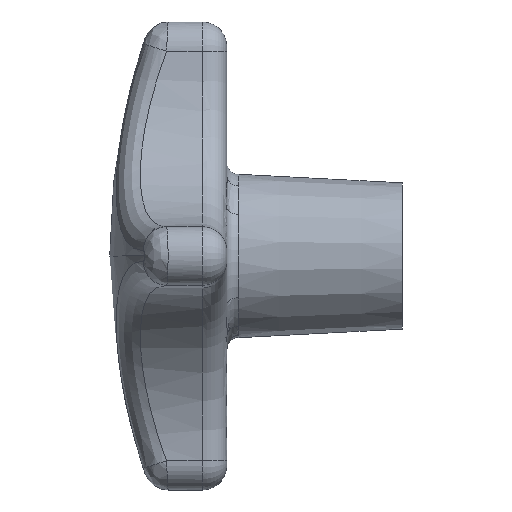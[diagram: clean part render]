
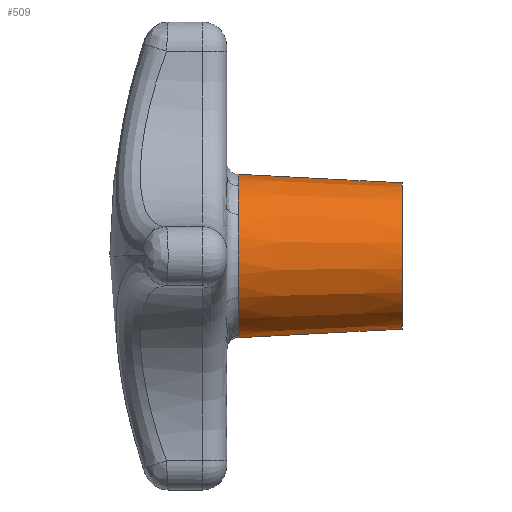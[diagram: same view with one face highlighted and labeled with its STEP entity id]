
A CAD part, left-side view. The second image highlights one B-rep face of the part: STEP entity #509.
In plain terms, the highlighted conical face has half-angle 3 degrees and reference radius 12.5 mm.
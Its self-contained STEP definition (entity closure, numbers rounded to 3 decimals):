
#46 = AXIS2_PLACEMENT_3D ( 'NONE', #706, #2935, #2032 ) ;
#80 = CARTESIAN_POINT ( 'NONE',  ( -10.662, -1.94, 9.046 ) ) ;
#128 = VERTEX_POINT ( 'NONE', #191 ) ;
#134 = CARTESIAN_POINT ( 'NONE',  ( -11.999, -1.974, -7.152 ) ) ;
#168 = ORIENTED_EDGE ( 'NONE', *, *, #2082, .T. ) ;
#191 = CARTESIAN_POINT ( 'NONE',  ( 0., -30., 12.5 ) ) ;
#202 = EDGE_LOOP ( 'NONE', ( #1090, #168, #2123, #2435, #1952, #1994, #2594, #2810 ) ) ;
#243 = CARTESIAN_POINT ( 'NONE',  ( -10.673, -1.941, -9.033 ) ) ;
#244 = CARTESIAN_POINT ( 'NONE',  ( 0., -30., -12.5 ) ) ;
#254 = CARTESIAN_POINT ( 'NONE',  ( -8.13, -1.961, -11.375 ) ) ;
#269 = EDGE_CURVE ( 'NONE', #1566, #708, #2102, .T. ) ;
#327 = EDGE_CURVE ( 'NONE', #2805, #1313, #461, .T. ) ;
#331 = VERTEX_POINT ( 'NONE', #532 ) ;
#356 = CARTESIAN_POINT ( 'NONE',  ( -7.152, -1.974, 11.999 ) ) ;
#358 = CARTESIAN_POINT ( 'NONE',  ( -11.999, -1.974, -7.152 ) ) ;
#371 = AXIS2_PLACEMENT_3D ( 'NONE', #1288, #1476, #2386 ) ;
#436 = DIRECTION ( 'NONE',  ( 0., -1., 0. ) ) ;
#438 = FACE_OUTER_BOUND ( 'NONE', #202, .T. ) ;
#461 = LINE ( 'NONE', #736, #1962 ) ;
#509 = ADVANCED_FACE ( 'NONE', ( #438 ), #1820, .T. ) ;
#532 = CARTESIAN_POINT ( 'NONE',  ( -7.152, -1.974, -11.999 ) ) ;
#586 = EDGE_CURVE ( 'NONE', #1095, #331, #1654, .T. ) ;
#675 = DIRECTION ( 'NONE',  ( 0., 0.999, 0.052 ) ) ;
#706 = CARTESIAN_POINT ( 'NONE',  ( 0., -1.974, 0. ) ) ;
#708 = VERTEX_POINT ( 'NONE', #1159 ) ;
#710 = CARTESIAN_POINT ( 'NONE',  ( -11.702, -1.974, -7.651 ) ) ;
#736 = CARTESIAN_POINT ( 'NONE',  ( 0., -30., -12.5 ) ) ;
#744 = CIRCLE ( 'NONE', #2711, 13.969 ) ;
#847 = VECTOR ( 'NONE', #675, 1000. ) ;
#889 = DIRECTION ( 'NONE',  ( 0., -1., 0. ) ) ;
#908 = CARTESIAN_POINT ( 'NONE',  ( -8.127, -1.962, 11.377 ) ) ;
#990 = CARTESIAN_POINT ( 'NONE',  ( -9.463, -1.933, 10.294 ) ) ;
#1018 = EDGE_CURVE ( 'NONE', #331, #1313, #2636, .T. ) ;
#1090 = ORIENTED_EDGE ( 'NONE', *, *, #327, .F. ) ;
#1095 = VERTEX_POINT ( 'NONE', #358 ) ;
#1150 = CARTESIAN_POINT ( 'NONE',  ( -7.152, -1.974, -11.999 ) ) ;
#1159 = CARTESIAN_POINT ( 'NONE',  ( -11.999, -1.974, 7.152 ) ) ;
#1197 = AXIS2_PLACEMENT_3D ( 'NONE', #1596, #889, #2034 ) ;
#1199 = EDGE_CURVE ( 'NONE', #708, #1095, #744, .T. ) ;
#1219 = CARTESIAN_POINT ( 'NONE',  ( -9.033, -1.941, 10.673 ) ) ;
#1285 = VERTEX_POINT ( 'NONE', #2658 ) ;
#1288 = CARTESIAN_POINT ( 'NONE',  ( 0., -30., 0. ) ) ;
#1313 = VERTEX_POINT ( 'NONE', #2787 ) ;
#1363 = DIRECTION ( 'NONE',  ( 0., 0., -1. ) ) ;
#1452 = CARTESIAN_POINT ( 'NONE',  ( -11.999, -1.974, 7.152 ) ) ;
#1476 = DIRECTION ( 'NONE',  ( 0., 1., 0. ) ) ;
#1566 = VERTEX_POINT ( 'NONE', #356 ) ;
#1596 = CARTESIAN_POINT ( 'NONE',  ( 0., -1.974, 0. ) ) ;
#1618 = CARTESIAN_POINT ( 'NONE',  ( -7.651, -1.974, -11.701 ) ) ;
#1625 = CARTESIAN_POINT ( 'NONE',  ( -9.482, -1.933, -10.277 ) ) ;
#1643 = CARTESIAN_POINT ( 'NONE',  ( -7.651, -1.974, 11.702 ) ) ;
#1654 = B_SPLINE_CURVE_WITH_KNOTS ( 'NONE', 3,
 ( #134, #710, #1834, #243, #2061, #1625, #2513, #254, #1618, #1150 ),
 .UNSPECIFIED., .F., .F.,
 ( 4, 2, 2, 2, 4 ),
 ( 0., 0.002, 0.003, 0.005, 0.007 ),
 .UNSPECIFIED. ) ;
#1659 = DIRECTION ( 'NONE',  ( 0., 0., 1. ) ) ;
#1748 = AXIS2_PLACEMENT_3D ( 'NONE', #2575, #2316, #1659 ) ;
#1804 = CARTESIAN_POINT ( 'NONE',  ( 0., -1.974, 0. ) ) ;
#1820 = CONICAL_SURFACE ( 'NONE', #371, 12.5, 0.052 ) ;
#1834 = CARTESIAN_POINT ( 'NONE',  ( -11.377, -1.962, -8.127 ) ) ;
#1876 = CIRCLE ( 'NONE', #46, 13.969 ) ;
#1952 = ORIENTED_EDGE ( 'NONE', *, *, #269, .T. ) ;
#1962 = VECTOR ( 'NONE', #2592, 1000. ) ;
#1994 = ORIENTED_EDGE ( 'NONE', *, *, #1199, .T. ) ;
#2032 = DIRECTION ( 'NONE',  ( 0., 0., -1. ) ) ;
#2034 = DIRECTION ( 'NONE',  ( 0., 0., -1. ) ) ;
#2061 = CARTESIAN_POINT ( 'NONE',  ( -10.294, -1.933, -9.463 ) ) ;
#2082 = EDGE_CURVE ( 'NONE', #2805, #128, #2938, .T. ) ;
#2102 = B_SPLINE_CURVE_WITH_KNOTS ( 'NONE', 3,
 ( #2772, #1643, #908, #1219, #990, #2542, #80, #2565, #2801, #1452 ),
 .UNSPECIFIED., .F., .F.,
 ( 4, 2, 2, 2, 4 ),
 ( 0., 0.002, 0.003, 0.005, 0.007 ),
 .UNSPECIFIED. ) ;
#2123 = ORIENTED_EDGE ( 'NONE', *, *, #2701, .T. ) ;
#2316 = DIRECTION ( 'NONE',  ( 0., 1., 0. ) ) ;
#2386 = DIRECTION ( 'NONE',  ( 0., 0., 1. ) ) ;
#2426 = EDGE_CURVE ( 'NONE', #1285, #1566, #1876, .T. ) ;
#2435 = ORIENTED_EDGE ( 'NONE', *, *, #2426, .T. ) ;
#2497 = CARTESIAN_POINT ( 'NONE',  ( 0., -30., 12.5 ) ) ;
#2513 = CARTESIAN_POINT ( 'NONE',  ( -9.046, -1.94, -10.662 ) ) ;
#2542 = CARTESIAN_POINT ( 'NONE',  ( -10.277, -1.933, 9.482 ) ) ;
#2565 = CARTESIAN_POINT ( 'NONE',  ( -11.375, -1.961, 8.13 ) ) ;
#2575 = CARTESIAN_POINT ( 'NONE',  ( 0., -30., 0. ) ) ;
#2587 = LINE ( 'NONE', #2497, #847 ) ;
#2592 = DIRECTION ( 'NONE',  ( 0., 0.999, -0.052 ) ) ;
#2594 = ORIENTED_EDGE ( 'NONE', *, *, #586, .T. ) ;
#2636 = CIRCLE ( 'NONE', #1197, 13.969 ) ;
#2658 = CARTESIAN_POINT ( 'NONE',  ( 0., -1.974, 13.969 ) ) ;
#2701 = EDGE_CURVE ( 'NONE', #128, #1285, #2587, .T. ) ;
#2711 = AXIS2_PLACEMENT_3D ( 'NONE', #1804, #436, #1363 ) ;
#2772 = CARTESIAN_POINT ( 'NONE',  ( -7.152, -1.974, 11.999 ) ) ;
#2787 = CARTESIAN_POINT ( 'NONE',  ( 0., -1.974, -13.969 ) ) ;
#2801 = CARTESIAN_POINT ( 'NONE',  ( -11.701, -1.974, 7.651 ) ) ;
#2805 = VERTEX_POINT ( 'NONE', #244 ) ;
#2810 = ORIENTED_EDGE ( 'NONE', *, *, #1018, .T. ) ;
#2935 = DIRECTION ( 'NONE',  ( 0., -1., 0. ) ) ;
#2938 = CIRCLE ( 'NONE', #1748, 12.5 ) ;
